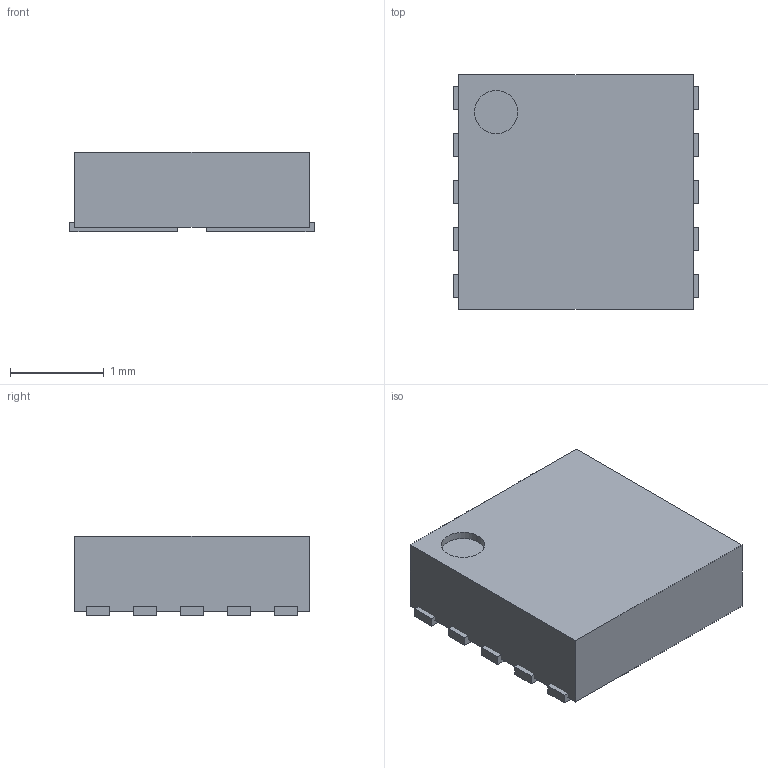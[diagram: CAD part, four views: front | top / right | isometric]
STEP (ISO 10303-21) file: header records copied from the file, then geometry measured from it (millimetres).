
FILE_DESCRIPTION(('FreeCAD Model'),'2;1');
FILE_NAME('Open CASCADE Shape Model','2026-10-15T00:26:02',('FreeCAD'),( 'FreeCAD'),'Open CASCADE STEP processor 7.8','FreeCAD','Unknown');
FILE_SCHEMA(('AUTOMOTIVE_DESIGN { 1 0 10303 214 1 1 1 1 }'));
Length unit declared in the file: millimetre
Products named in the file (1): Open CASCADE STEP translator 7.8 1
Bounding box: 2.6 x 2.5 x 0.85 mm (x, y, z)
Volume: 5.3 mm3; surface area: 29.2 mm2
Topology: 11 solids, 11 shells, 68 faces, 135 edges, 90 vertices
Faces by surface type: plane 67, cylinder 1
Full cylindrical faces by diameter (mm): 0.46 x1
Entity records: 1711 total; most frequent: CARTESIAN_POINT 294, DIRECTION 275, ORIENTED_EDGE 270, EDGE_CURVE 135, LINE 133, VECTOR 133, VERTEX_POINT 90, AXIS2_PLACEMENT_3D 71
